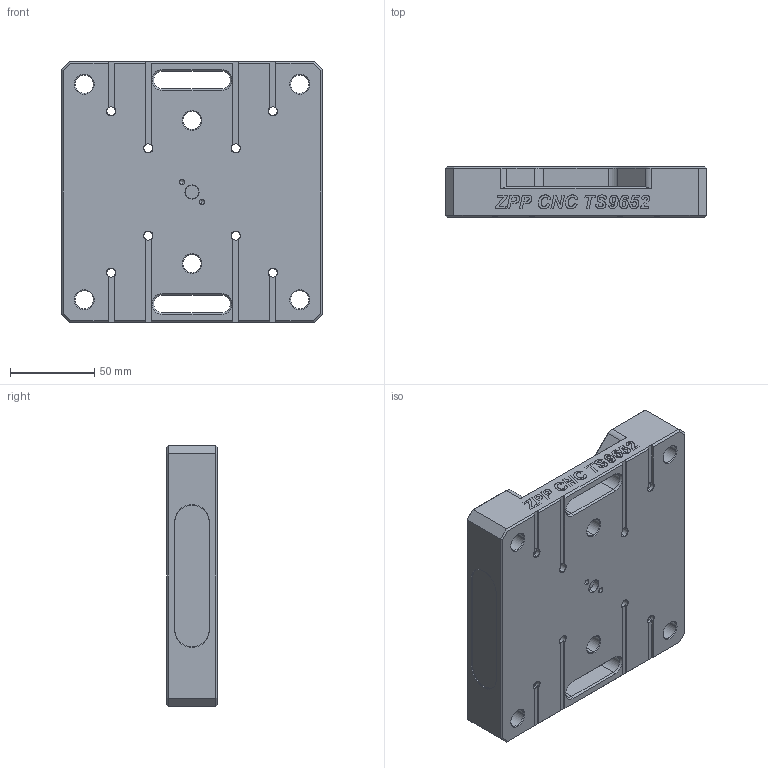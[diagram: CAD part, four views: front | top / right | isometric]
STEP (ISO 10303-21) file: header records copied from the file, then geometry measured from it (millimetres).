
FILE_DESCRIPTION((''),'2;1');
FILE_NAME('TS9652_9_1','2024-09-10T13:22:51',('XF'),(''),'CREO PARAMETRIC BY PTC INC, 2022073','CREO PARAMETRIC BY PTC INC, 2022073','');
FILE_SCHEMA(('CONFIG_CONTROL_DESIGN'));
Length unit declared in the file: millimetre
Products named in the file (1): TS9652_9_1
Bounding box: 155 x 30 x 155 mm (x, y, z)
Volume: 586117.4 mm3; surface area: 88013.7 mm2
Topology: 1 solids, 1 shells, 898 faces, 2518 edges, 1666 vertices
Faces by surface type: extrusion 356, plane 304, cylinder 114, cone 108, torus 16
Entity records: 30665 total; most frequent: CARTESIAN_POINT 8451, ORIENTED_EDGE 5012, DIRECTION 3690, EDGE_CURVE 2506, VERTEX_POINT 1666, VECTOR 1638, LINE 1282, B_SPLINE_CURVE_WITH_KNOTS 1096
